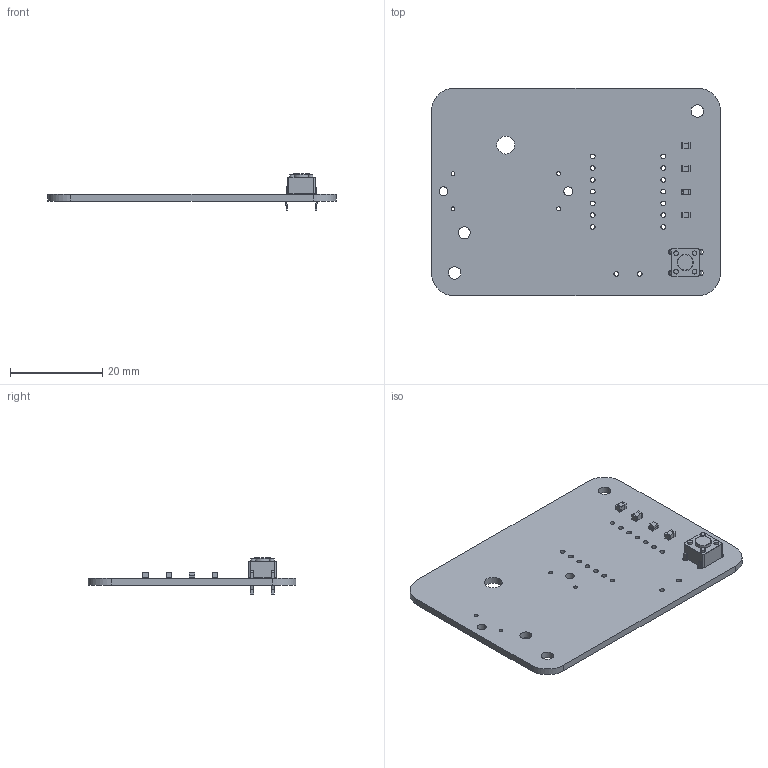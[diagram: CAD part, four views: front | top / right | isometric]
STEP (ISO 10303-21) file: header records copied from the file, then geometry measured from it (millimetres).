
FILE_DESCRIPTION(('KiCad electronic assembly'),'2;1');
FILE_NAME('schematic.step','2026-02-23T09:57:49',('Pcbnew'),('Kicad'), 'Open CASCADE STEP processor 7.9','KiCad to STEP converter','Unknown' );
FILE_SCHEMA(('AUTOMOTIVE_DESIGN { 1 0 10303 214 1 1 1 1 }'));
Length unit declared in the file: millimetre
Products named in the file (5): schematic 1; LED_0805_2012Metric; C_0805_2012Metric; SW_PUSH_6mm; schematic_PCB
Assembly tree (6 placements, depth 2):
  schematic 1
    LED_0805_2012Metric
    C_0805_2012Metric  x3
    SW_PUSH_6mm
    schematic_PCB
Bounding box: 62.5 x 45 x 7.8 mm (x, y, z)
Volume: 4286.3 mm3; surface area: 6228.8 mm2
Topology: 6 solids, 6 shells, 279 faces, 740 edges, 485 vertices
Faces by surface type: plane 159, cylinder 119, torus 1
Full cylindrical faces by diameter (mm): 0.85 x4, 1 x4, 1.016 x16, 1.1 x4, 1.9 x2, 2.6 x1, 2.7 x2, 3.5 x1, 3.9 x1
Entity records: 8469 total; most frequent: DIRECTION 1244, CARTESIAN_POINT 1215, ORIENTED_EDGE 1192, EDGE_CURVE 596, AXIS2_PLACEMENT_3D 418, LINE 408, VECTOR 408, VERTEX_POINT 389
